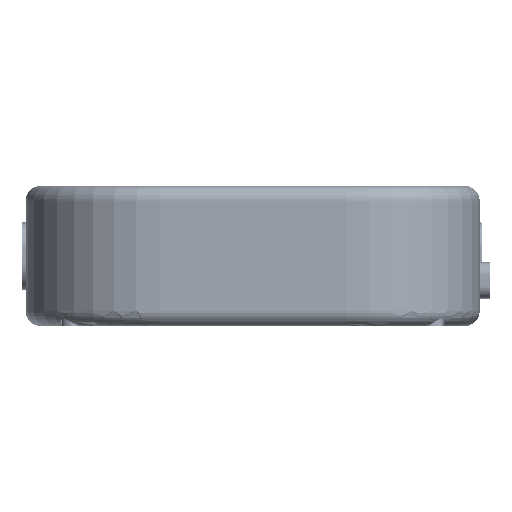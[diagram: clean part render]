
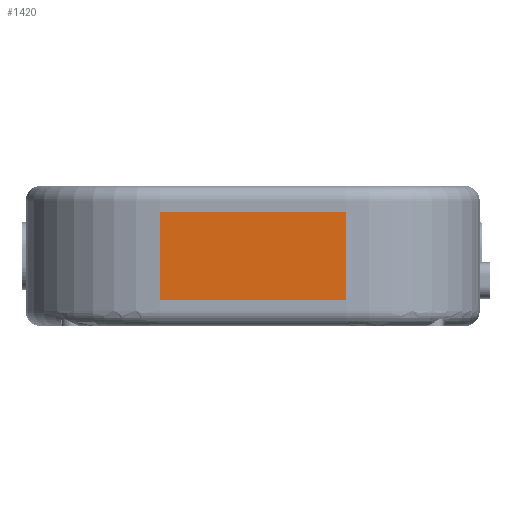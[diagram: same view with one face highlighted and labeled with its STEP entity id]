
A CAD part, front view. The second image highlights one B-rep face of the part: STEP entity #1420.
In plain terms, the highlighted planar face has unit normal (0, -1, 0).
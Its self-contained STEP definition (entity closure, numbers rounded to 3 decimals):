
#306 = CYLINDRICAL_SURFACE('',#307,26.);
#307 = AXIS2_PLACEMENT_3D('',#308,#309,#310);
#308 = CARTESIAN_POINT('',(-18.,-42.,-13.6));
#309 = DIRECTION('',(0.,0.,1.));
#310 = DIRECTION('',(-1.,-0.,0.));
#571 = VERTEX_POINT('',#572);
#572 = CARTESIAN_POINT('',(-18.,-68.,-8.6));
#599 = EDGE_CURVE('',#571,#600,#602,.T.);
#600 = VERTEX_POINT('',#601);
#601 = CARTESIAN_POINT('',(-18.,-68.,8.6));
#602 = SURFACE_CURVE('',#603,(#607,#614),.PCURVE_S1.);
#603 = LINE('',#604,#605);
#604 = CARTESIAN_POINT('',(-18.,-68.,-13.6));
#605 = VECTOR('',#606,1.);
#606 = DIRECTION('',(0.,0.,1.));
#607 = PCURVE('',#306,#608);
#608 = DEFINITIONAL_REPRESENTATION('',(#609),#613);
#609 = LINE('',#610,#611);
#610 = CARTESIAN_POINT('',(1.571,0.));
#611 = VECTOR('',#612,1.);
#612 = DIRECTION('',(0.,1.));
#613 = ( GEOMETRIC_REPRESENTATION_CONTEXT(2) 
PARAMETRIC_REPRESENTATION_CONTEXT() REPRESENTATION_CONTEXT('2D SPACE',''
  ) );
#614 = PCURVE('',#615,#620);
#615 = PLANE('',#616);
#616 = AXIS2_PLACEMENT_3D('',#617,#618,#619);
#617 = CARTESIAN_POINT('',(-44.,-68.,-13.6));
#618 = DIRECTION('',(0.,1.,0.));
#619 = DIRECTION('',(0.,-0.,1.));
#620 = DEFINITIONAL_REPRESENTATION('',(#621),#625);
#621 = LINE('',#622,#623);
#622 = CARTESIAN_POINT('',(0.,26.));
#623 = VECTOR('',#624,1.);
#624 = DIRECTION('',(1.,0.));
#625 = ( GEOMETRIC_REPRESENTATION_CONTEXT(2) 
PARAMETRIC_REPRESENTATION_CONTEXT() REPRESENTATION_CONTEXT('2D SPACE',''
  ) );
#1381 = PLANE('',#1382);
#1382 = AXIS2_PLACEMENT_3D('',#1383,#1384,#1385);
#1383 = CARTESIAN_POINT('',(-18.,-68.,-13.6));
#1384 = DIRECTION('',(0.,1.,0.));
#1385 = DIRECTION('',(1.,0.,0.));
#1420 = ADVANCED_FACE('',(#1421),#615,.F.);
#1421 = FACE_BOUND('',#1422,.F.);
#1422 = EDGE_LOOP('',(#1423,#1424,#1452,#1480));
#1423 = ORIENTED_EDGE('',*,*,#599,.T.);
#1424 = ORIENTED_EDGE('',*,*,#1425,.F.);
#1425 = EDGE_CURVE('',#1426,#600,#1428,.T.);
#1426 = VERTEX_POINT('',#1427);
#1427 = CARTESIAN_POINT('',(18.,-68.,8.6));
#1428 = SURFACE_CURVE('',#1429,(#1433,#1440),.PCURVE_S1.);
#1429 = LINE('',#1430,#1431);
#1430 = CARTESIAN_POINT('',(18.,-68.,8.6));
#1431 = VECTOR('',#1432,1.);
#1432 = DIRECTION('',(-1.,-0.,-0.));
#1433 = PCURVE('',#615,#1434);
#1434 = DEFINITIONAL_REPRESENTATION('',(#1435),#1439);
#1435 = LINE('',#1436,#1437);
#1436 = CARTESIAN_POINT('',(22.2,62.));
#1437 = VECTOR('',#1438,1.);
#1438 = DIRECTION('',(0.,-1.));
#1439 = ( GEOMETRIC_REPRESENTATION_CONTEXT(2) 
PARAMETRIC_REPRESENTATION_CONTEXT() REPRESENTATION_CONTEXT('2D SPACE',''
  ) );
#1440 = PCURVE('',#1441,#1446);
#1441 = PLANE('',#1442);
#1442 = AXIS2_PLACEMENT_3D('',#1443,#1444,#1445);
#1443 = CARTESIAN_POINT('',(-18.,-68.,-13.6));
#1444 = DIRECTION('',(0.,1.,0.));
#1445 = DIRECTION('',(1.,0.,0.));
#1446 = DEFINITIONAL_REPRESENTATION('',(#1447),#1451);
#1447 = LINE('',#1448,#1449);
#1448 = CARTESIAN_POINT('',(36.,-22.2));
#1449 = VECTOR('',#1450,1.);
#1450 = DIRECTION('',(-1.,0.));
#1451 = ( GEOMETRIC_REPRESENTATION_CONTEXT(2) 
PARAMETRIC_REPRESENTATION_CONTEXT() REPRESENTATION_CONTEXT('2D SPACE',''
  ) );
#1452 = ORIENTED_EDGE('',*,*,#1453,.F.);
#1453 = EDGE_CURVE('',#1454,#1426,#1456,.T.);
#1454 = VERTEX_POINT('',#1455);
#1455 = CARTESIAN_POINT('',(18.,-68.,-8.6));
#1456 = SURFACE_CURVE('',#1457,(#1461,#1468),.PCURVE_S1.);
#1457 = LINE('',#1458,#1459);
#1458 = CARTESIAN_POINT('',(18.,-68.,-13.6));
#1459 = VECTOR('',#1460,1.);
#1460 = DIRECTION('',(0.,0.,1.));
#1461 = PCURVE('',#615,#1462);
#1462 = DEFINITIONAL_REPRESENTATION('',(#1463),#1467);
#1463 = LINE('',#1464,#1465);
#1464 = CARTESIAN_POINT('',(0.,62.));
#1465 = VECTOR('',#1466,1.);
#1466 = DIRECTION('',(1.,0.));
#1467 = ( GEOMETRIC_REPRESENTATION_CONTEXT(2) 
PARAMETRIC_REPRESENTATION_CONTEXT() REPRESENTATION_CONTEXT('2D SPACE',''
  ) );
#1468 = PCURVE('',#1469,#1474);
#1469 = CYLINDRICAL_SURFACE('',#1470,26.);
#1470 = AXIS2_PLACEMENT_3D('',#1471,#1472,#1473);
#1471 = CARTESIAN_POINT('',(18.,-42.,-13.6));
#1472 = DIRECTION('',(0.,0.,1.));
#1473 = DIRECTION('',(1.,0.,-0.));
#1474 = DEFINITIONAL_REPRESENTATION('',(#1475),#1479);
#1475 = LINE('',#1476,#1477);
#1476 = CARTESIAN_POINT('',(4.712,0.));
#1477 = VECTOR('',#1478,1.);
#1478 = DIRECTION('',(-0.,1.));
#1479 = ( GEOMETRIC_REPRESENTATION_CONTEXT(2) 
PARAMETRIC_REPRESENTATION_CONTEXT() REPRESENTATION_CONTEXT('2D SPACE',''
  ) );
#1480 = ORIENTED_EDGE('',*,*,#1481,.T.);
#1481 = EDGE_CURVE('',#1454,#571,#1482,.T.);
#1482 = SURFACE_CURVE('',#1483,(#1487,#1494),.PCURVE_S1.);
#1483 = LINE('',#1484,#1485);
#1484 = CARTESIAN_POINT('',(18.,-68.,-8.6));
#1485 = VECTOR('',#1486,1.);
#1486 = DIRECTION('',(-1.,-0.,-0.));
#1487 = PCURVE('',#615,#1488);
#1488 = DEFINITIONAL_REPRESENTATION('',(#1489),#1493);
#1489 = LINE('',#1490,#1491);
#1490 = CARTESIAN_POINT('',(5.,62.));
#1491 = VECTOR('',#1492,1.);
#1492 = DIRECTION('',(0.,-1.));
#1493 = ( GEOMETRIC_REPRESENTATION_CONTEXT(2) 
PARAMETRIC_REPRESENTATION_CONTEXT() REPRESENTATION_CONTEXT('2D SPACE',''
  ) );
#1494 = PCURVE('',#1381,#1495);
#1495 = DEFINITIONAL_REPRESENTATION('',(#1496),#1500);
#1496 = LINE('',#1497,#1498);
#1497 = CARTESIAN_POINT('',(36.,-5.));
#1498 = VECTOR('',#1499,1.);
#1499 = DIRECTION('',(-1.,0.));
#1500 = ( GEOMETRIC_REPRESENTATION_CONTEXT(2) 
PARAMETRIC_REPRESENTATION_CONTEXT() REPRESENTATION_CONTEXT('2D SPACE',''
  ) );
